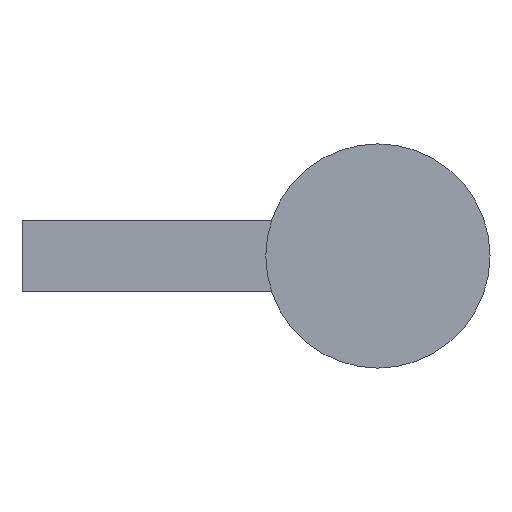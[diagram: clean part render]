
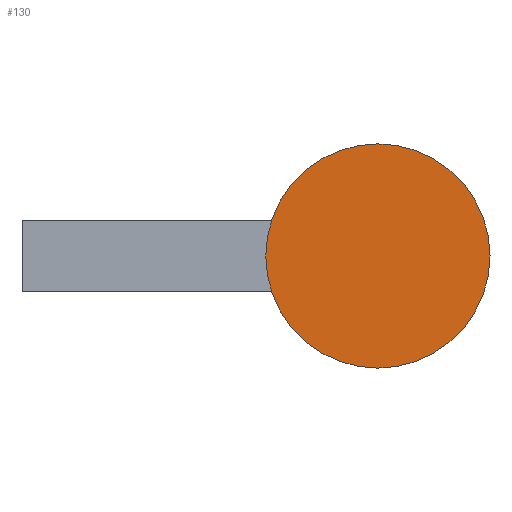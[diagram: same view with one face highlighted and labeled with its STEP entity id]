
A CAD part, top view. The second image highlights one B-rep face of the part: STEP entity #130.
In plain terms, the highlighted planar face has unit normal (0, 0, 1).
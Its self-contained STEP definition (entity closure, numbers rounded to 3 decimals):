
#130=ADVANCED_FACE('',(#279),#280,.T.);
#148=EDGE_CURVE('',#312,#312,#313,.T.);
#279=FACE_OUTER_BOUND('',#453,.T.);
#280=PLANE('',#454);
#312=VERTEX_POINT('',#488);
#313=CIRCLE('',#489,31.5);
#453=EDGE_LOOP('',(#666));
#454=AXIS2_PLACEMENT_3D('',#667,#668,#669);
#488=CARTESIAN_POINT('',(-31.5,0.0,50.5));
#489=AXIS2_PLACEMENT_3D('',#714,#715,#716);
#666=ORIENTED_EDGE('',*,*,#148,.F.);
#667=CARTESIAN_POINT('',(-15.75,0.0,50.5));
#668=DIRECTION('',(0.,0.,1.0));
#669=DIRECTION('',(0.0,-1.0,0.));
#714=CARTESIAN_POINT('',(0.,0.0,50.5));
#715=DIRECTION('',(-0.0,0.,-1.0));
#716=DIRECTION('',(-1.0,-0.0,0.0));
